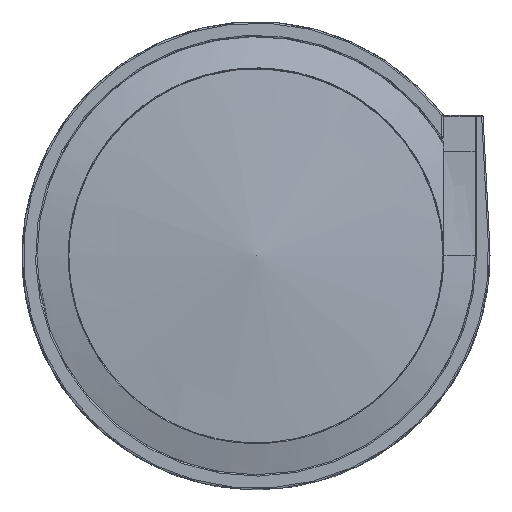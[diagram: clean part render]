
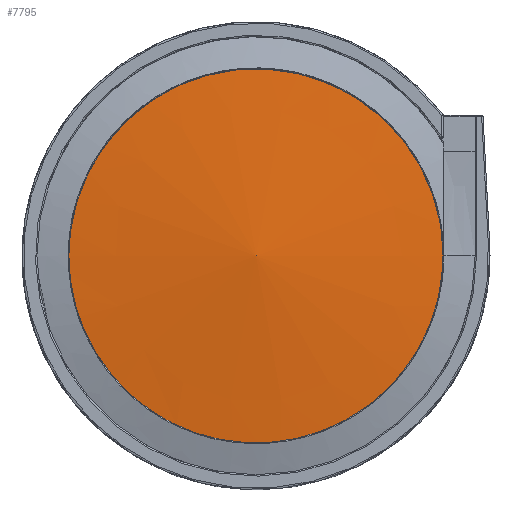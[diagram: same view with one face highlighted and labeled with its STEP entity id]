
A CAD part, top view. The second image highlights one B-rep face of the part: STEP entity #7795.
In plain terms, the highlighted conical face has half-angle 85 degrees and reference radius 39.796 mm.
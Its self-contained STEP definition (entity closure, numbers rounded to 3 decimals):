
#245=CONICAL_SURFACE('',#8553,39.796,1.484);
#777=FACE_OUTER_BOUND('',#1281,.T.);
#1281=EDGE_LOOP('',(#5671,#5672,#5673,#5674,#5675,#5676,#5677,#5678,#5679,
#5680));
#1763=CIRCLE('',#8402,68.);
#1764=CIRCLE('',#8405,79.591);
#2220=B_SPLINE_CURVE_WITH_KNOTS('',3,(#13778,#13779,#13780,#13781,#13782,
#13783,#13784),.UNSPECIFIED.,.F.,.F.,(4,3,4),(0.126,0.139,
0.149),.UNSPECIFIED.);
#2222=B_SPLINE_CURVE_WITH_KNOTS('',3,(#13812,#13813,#13814,#13815,#13816,
#13817,#13818,#13819),.UNSPECIFIED.,.F.,.F.,(4,2,2,4),(-0.003,
0.,0.474,0.719),.UNSPECIFIED.);
#2228=B_SPLINE_CURVE_WITH_KNOTS('',3,(#14031,#14032,#14033,#14034,#14035),
 .UNSPECIFIED.,.F.,.F.,(4,1,4),(-0.613,1.861,4.349),
 .UNSPECIFIED.);
#2230=B_SPLINE_CURVE_WITH_KNOTS('',3,(#14042,#14043,#14044,#14045,#14046,
#14047,#14048,#14049,#14050,#14051,#14052,#14053,#14054,#14055,#14056,#14057,
#14058,#14059),.UNSPECIFIED.,.F.,.F.,(4,2,2,2,2,2,2,2,4),(-13.416,
-13.067,-12.846,-11.479,-10.636,
-7.969,-5.313,-2.656,-0.558),
 .UNSPECIFIED.);
#2231=B_SPLINE_CURVE_WITH_KNOTS('',3,(#14061,#14062,#14063,#14064,#14065,
#14066,#14067,#14068,#14069,#14070),.UNSPECIFIED.,.F.,.F.,(4,2,2,2,4),(-1.381,
-1.037,-0.692,-0.346,0.),
 .UNSPECIFIED.);
#2359=LINE('',#14072,#2914);
#2360=LINE('',#14073,#2915);
#2914=VECTOR('',#9739,39.796);
#2915=VECTOR('',#9740,10.);
#3386=VERTEX_POINT('',#11797);
#3387=VERTEX_POINT('',#11799);
#3399=VERTEX_POINT('',#11889);
#3400=VERTEX_POINT('',#11903);
#3548=VERTEX_POINT('',#13731);
#3552=VERTEX_POINT('',#13777);
#3554=VERTEX_POINT('',#13811);
#3556=VERTEX_POINT('',#14060);
#3557=VERTEX_POINT('',#14071);
#4088=EDGE_CURVE('',#3387,#3386,#1763,.T.);
#4101=EDGE_CURVE('',#3399,#3400,#1764,.T.);
#4325=EDGE_CURVE('',#3548,#3552,#2220,.F.);
#4328=EDGE_CURVE('',#3552,#3554,#2222,.F.);
#4336=EDGE_CURVE('',#3554,#3399,#2228,.T.);
#4338=EDGE_CURVE('',#3387,#3548,#2230,.T.);
#4339=EDGE_CURVE('',#3556,#3386,#2231,.F.);
#4340=EDGE_CURVE('',#3556,#3557,#2359,.T.);
#4341=EDGE_CURVE('',#3556,#3400,#2360,.T.);
#5671=ORIENTED_EDGE('',*,*,#4338,.F.);
#5672=ORIENTED_EDGE('',*,*,#4088,.T.);
#5673=ORIENTED_EDGE('',*,*,#4339,.F.);
#5674=ORIENTED_EDGE('',*,*,#4340,.T.);
#5675=ORIENTED_EDGE('',*,*,#4340,.F.);
#5676=ORIENTED_EDGE('',*,*,#4341,.T.);
#5677=ORIENTED_EDGE('',*,*,#4101,.F.);
#5678=ORIENTED_EDGE('',*,*,#4336,.F.);
#5679=ORIENTED_EDGE('',*,*,#4328,.F.);
#5680=ORIENTED_EDGE('',*,*,#4325,.F.);
#7795=ADVANCED_FACE('',(#777),#245,.T.);
#8402=AXIS2_PLACEMENT_3D('',#11800,#9351,#9352);
#8405=AXIS2_PLACEMENT_3D('',#11904,#9361,#9362);
#8553=AXIS2_PLACEMENT_3D('',#14041,#9737,#9738);
#9351=DIRECTION('center_axis',(0.,0.,1.));
#9352=DIRECTION('ref_axis',(-1.,0.,0.));
#9361=DIRECTION('center_axis',(0.,0.,-1.));
#9362=DIRECTION('ref_axis',(1.,0.,0.));
#9737=DIRECTION('center_axis',(0.,0.,-1.));
#9738=DIRECTION('ref_axis',(1.,0.,0.));
#9739=DIRECTION('',(0.996,0.,0.087));
#9740=DIRECTION('',(-0.996,0.,-0.087));
#11797=CARTESIAN_POINT('',(-67.439,8.718,11.014));
#11799=CARTESIAN_POINT('',(68.,0.,11.014));
#11800=CARTESIAN_POINT('Origin',(0.,0.,11.014));
#11889=CARTESIAN_POINT('',(16.456,-77.868,10.));
#11903=CARTESIAN_POINT('',(-79.591,0.,10.));
#11904=CARTESIAN_POINT('Origin',(0.,0.,10.));
#13731=CARTESIAN_POINT('',(-21.071,-64.653,11.014));
#13777=CARTESIAN_POINT('',(-22.141,-64.302,11.013));
#13778=CARTESIAN_POINT('Ctrl Pts',(-22.141,-64.302,
11.013));
#13779=CARTESIAN_POINT('Ctrl Pts',(-21.943,-64.367,
11.014));
#13780=CARTESIAN_POINT('Ctrl Pts',(-21.749,-64.431,
11.014));
#13781=CARTESIAN_POINT('Ctrl Pts',(-21.554,-64.495,
11.014));
#13782=CARTESIAN_POINT('Ctrl Pts',(-21.394,-64.548,
11.014));
#13783=CARTESIAN_POINT('Ctrl Pts',(-21.234,-64.6,11.014));
#13784=CARTESIAN_POINT('Ctrl Pts',(-21.071,-64.653,
11.014));
#13811=CARTESIAN_POINT('',(-28.898,-61.794,10.995));
#13812=CARTESIAN_POINT('Ctrl Pts',(-28.898,-61.794,
10.995));
#13813=CARTESIAN_POINT('Ctrl Pts',(-28.889,-61.798,
10.995));
#13814=CARTESIAN_POINT('Ctrl Pts',(-28.88,-61.802,
10.995));
#13815=CARTESIAN_POINT('Ctrl Pts',(-27.417,-62.424,
11.));
#13816=CARTESIAN_POINT('Ctrl Pts',(-25.964,-62.98,
11.005));
#13817=CARTESIAN_POINT('Ctrl Pts',(-23.685,-63.785,
11.011));
#13818=CARTESIAN_POINT('Ctrl Pts',(-22.941,-64.037,
11.013));
#13819=CARTESIAN_POINT('Ctrl Pts',(-22.141,-64.302,
11.013));
#14031=CARTESIAN_POINT('Ctrl Pts',(-28.898,-61.794,
10.995));
#14032=CARTESIAN_POINT('Ctrl Pts',(-22.616,-66.979,
10.817));
#14033=CARTESIAN_POINT('Ctrl Pts',(-8.091,-75.038,
10.474));
#14034=CARTESIAN_POINT('Ctrl Pts',(8.248,-77.785,10.155));
#14035=CARTESIAN_POINT('Ctrl Pts',(16.457,-77.868,10.));
#14041=CARTESIAN_POINT('Origin',(0.,0.,13.482));
#14042=CARTESIAN_POINT('Ctrl Pts',(68.,0.,11.014));
#14043=CARTESIAN_POINT('Ctrl Pts',(68.,-1.163,11.014));
#14044=CARTESIAN_POINT('Ctrl Pts',(67.97,-2.326,11.014));
#14045=CARTESIAN_POINT('Ctrl Pts',(67.873,-4.225,11.014));
#14046=CARTESIAN_POINT('Ctrl Pts',(67.823,-4.961,11.014));
#14047=CARTESIAN_POINT('Ctrl Pts',(67.379,-10.235,11.014));
#14048=CARTESIAN_POINT('Ctrl Pts',(66.543,-14.723,11.014));
#14049=CARTESIAN_POINT('Ctrl Pts',(64.475,-21.791,11.014));
#14050=CARTESIAN_POINT('Ctrl Pts',(63.52,-24.436,11.014));
#14051=CARTESIAN_POINT('Ctrl Pts',(58.871,-35.174,11.014));
#14052=CARTESIAN_POINT('Ctrl Pts',(53.773,-42.561,11.014));
#14053=CARTESIAN_POINT('Ctrl Pts',(41.049,-54.93,11.014));
#14054=CARTESIAN_POINT('Ctrl Pts',(33.556,-59.803,11.014));
#14055=CARTESIAN_POINT('Ctrl Pts',(17.122,-66.402,11.014));
#14056=CARTESIAN_POINT('Ctrl Pts',(8.339,-68.065,11.014));
#14057=CARTESIAN_POINT('Ctrl Pts',(-7.509,-67.945,
11.014));
#14058=CARTESIAN_POINT('Ctrl Pts',(-14.442,-66.813,
11.014));
#14059=CARTESIAN_POINT('Ctrl Pts',(-21.071,-64.653,
11.014));
#14060=CARTESIAN_POINT('',(-77.356,0.,10.196));
#14061=CARTESIAN_POINT('Ctrl Pts',(-67.439,8.718,11.014));
#14062=CARTESIAN_POINT('Ctrl Pts',(-67.586,7.579,11.014));
#14063=CARTESIAN_POINT('Ctrl Pts',(-67.952,6.385,10.993));
#14064=CARTESIAN_POINT('Ctrl Pts',(-69.103,4.222,10.907));
#14065=CARTESIAN_POINT('Ctrl Pts',(-69.888,3.252,10.843));
#14066=CARTESIAN_POINT('Ctrl Pts',(-71.612,1.734,10.697));
#14067=CARTESIAN_POINT('Ctrl Pts',(-72.677,1.077,10.604));
#14068=CARTESIAN_POINT('Ctrl Pts',(-74.975,0.21,10.404));
#14069=CARTESIAN_POINT('Ctrl Pts',(-76.207,0.,
10.296));
#14070=CARTESIAN_POINT('Ctrl Pts',(-77.356,0.,
10.196));
#14071=CARTESIAN_POINT('',(0.,0.,16.963));
#14072=CARTESIAN_POINT('',(-39.796,0.,13.482));
#14073=CARTESIAN_POINT('',(-39.796,0.,13.482));
